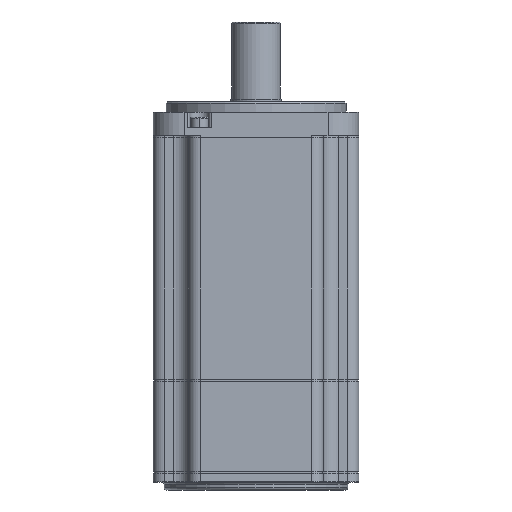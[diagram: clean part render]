
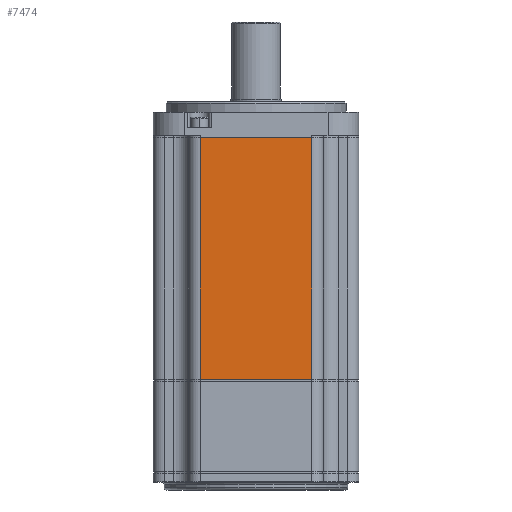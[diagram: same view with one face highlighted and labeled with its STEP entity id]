
A CAD part, front view. The second image highlights one B-rep face of the part: STEP entity #7474.
In plain terms, the highlighted planar face has unit normal (0, -1, 0).
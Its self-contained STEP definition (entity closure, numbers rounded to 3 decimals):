
#7471 = VERTEX_POINT ( 'NONE', #13579 ) ;
#7473 = EDGE_CURVE ( 'NONE', #7521, #7471, #13648, .T. ) ;
#7474 = ADVANCED_FACE ( 'NONE', ( #13644 ), #13643, .F. ) ;
#7475 = EDGE_LOOP ( 'NONE', ( #7476, #7479, #7480, #7523 ) ) ;
#7476 = ORIENTED_EDGE ( 'NONE', *, *, #7477, .F. ) ;
#7477 = EDGE_CURVE ( 'NONE', #7521, #7478, #13641, .T. ) ;
#7478 = VERTEX_POINT ( 'NONE', #13634 ) ;
#7479 = ORIENTED_EDGE ( 'NONE', *, *, #7473, .T. ) ;
#7480 = ORIENTED_EDGE ( 'NONE', *, *, #7481, .T. ) ;
#7481 = EDGE_CURVE ( 'NONE', #7471, #7482, #13633, .T. ) ;
#7482 = VERTEX_POINT ( 'NONE', #13629 ) ;
#7521 = VERTEX_POINT ( 'NONE', #13686 ) ;
#7523 = ORIENTED_EDGE ( 'NONE', *, *, #7524, .T. ) ;
#7524 = EDGE_CURVE ( 'NONE', #7482, #7478, #13685, .T. ) ;
#13579 = CARTESIAN_POINT ( 'NONE',  ( 21.75, -125.828, 18.007 ) ) ;
#13629 = CARTESIAN_POINT ( 'NONE',  ( -21.75, -125.828, 18.007 ) ) ;
#13630 = DIRECTION ( 'NONE',  ( -1., 0., 0. ) ) ;
#13631 = VECTOR ( 'NONE', #13630, 1000. ) ;
#13632 = CARTESIAN_POINT ( 'NONE',  ( 26.25, -125.828, 18.007 ) ) ;
#13633 = LINE ( 'NONE', #13632, #13631 ) ;
#13634 = CARTESIAN_POINT ( 'NONE',  ( -21.75, -125.828, -75.893 ) ) ;
#13635 = DIRECTION ( 'NONE',  ( -1., 0., 0. ) ) ;
#13636 = VECTOR ( 'NONE', #13635, 1000. ) ;
#13637 = CARTESIAN_POINT ( 'NONE',  ( 26.25, -125.828, -75.893 ) ) ;
#13638 = DIRECTION ( 'NONE',  ( 1., 0., 0. ) ) ;
#13639 = DIRECTION ( 'NONE',  ( 0., 1., 0. ) ) ;
#13640 = AXIS2_PLACEMENT_3D ( 'NONE', #13642, #13639, #13638 ) ;
#13641 = LINE ( 'NONE', #13637, #13636 ) ;
#13642 = CARTESIAN_POINT ( 'NONE',  ( 26.25, -125.828, -75.893 ) ) ;
#13643 = PLANE ( 'NONE',  #13640 ) ;
#13644 = FACE_OUTER_BOUND ( 'NONE', #7475, .T. ) ;
#13645 = DIRECTION ( 'NONE',  ( 0., 0., 1. ) ) ;
#13646 = VECTOR ( 'NONE', #13645, 1000. ) ;
#13647 = CARTESIAN_POINT ( 'NONE',  ( 21.75, -125.828, -75.893 ) ) ;
#13648 = LINE ( 'NONE', #13647, #13646 ) ;
#13682 = DIRECTION ( 'NONE',  ( 0., 0., -1. ) ) ;
#13683 = VECTOR ( 'NONE', #13682, 1000. ) ;
#13684 = CARTESIAN_POINT ( 'NONE',  ( -21.75, -125.828, -75.893 ) ) ;
#13685 = LINE ( 'NONE', #13684, #13683 ) ;
#13686 = CARTESIAN_POINT ( 'NONE',  ( 21.75, -125.828, -75.893 ) ) ;
